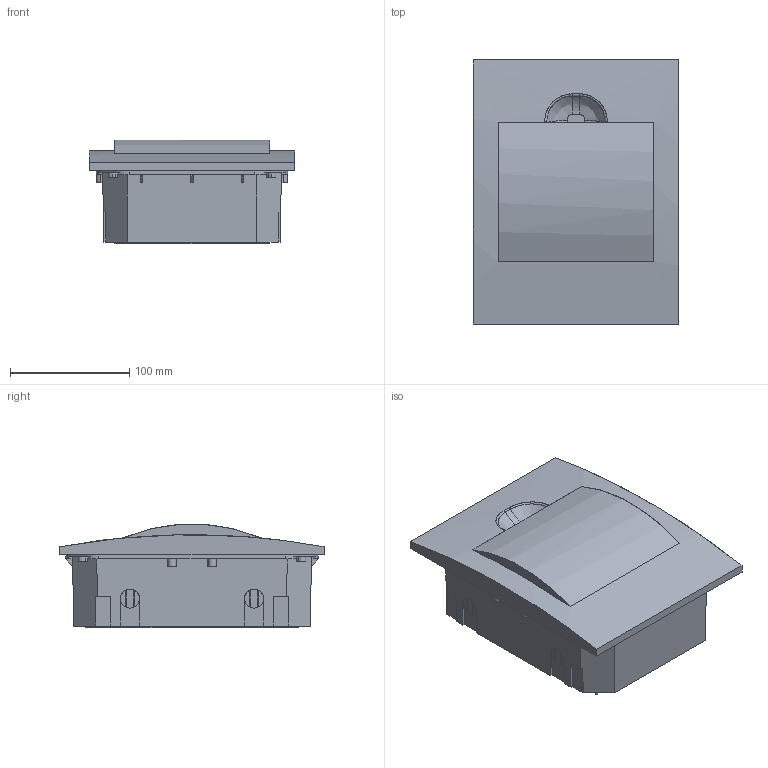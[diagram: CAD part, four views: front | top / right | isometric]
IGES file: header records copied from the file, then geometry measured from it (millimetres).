
Start section: SolidWorks IGES file using analytic representation for surfaces
Global section: file name: C:\Users\Rodrigo\Desktop\weg1\2014\QDW02\QDW02 E&F\QDW02-E\QDW02-6-E\conversão\QDW02-6-E.IGS; native system: SolidWorks 2012; preprocessor: SolidWorks 2012; author: Rodrigo; date: 140213.103013; units: millimetre
Bounding box: 172 x 221 x 86.63 mm (x, y, z)
Surface area: 254252.4 mm2 (no closed solid volume)
Topology: 0 solids, 0 shells, 446 faces, 4679 edges, 4679 vertices
Faces by surface type: bspline 320, revolution 126
